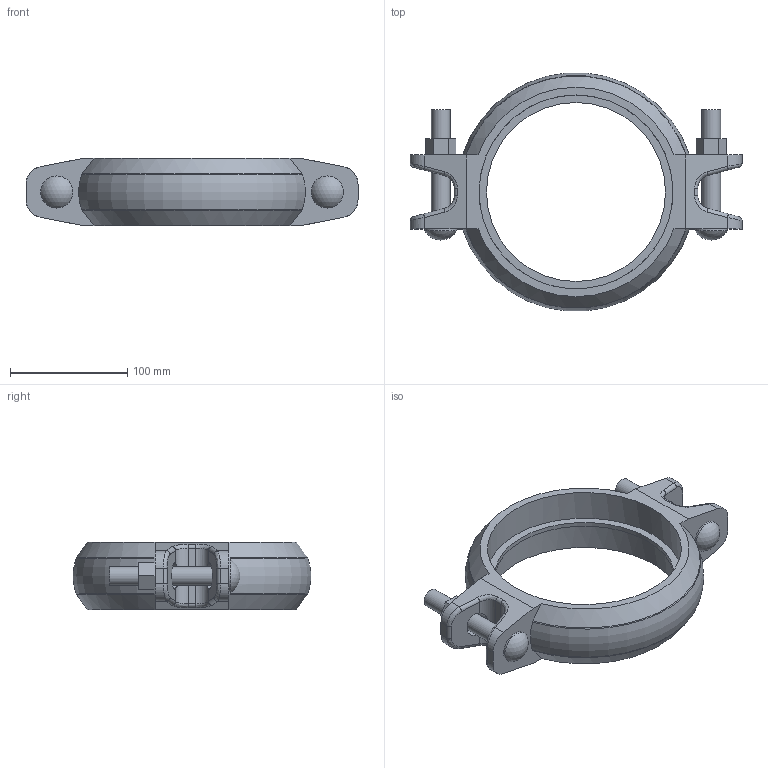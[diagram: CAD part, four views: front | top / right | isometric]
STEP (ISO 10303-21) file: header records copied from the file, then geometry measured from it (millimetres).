
FILE_DESCRIPTION(/* description */ ('QUICKVIC RIGID COUPLING FOR STEEL STYLE 107N','CAx-IF Rec.Pracs.---Representation and Presentation of Product Manufacturing Information (PMI)---4.0---2014-10-13'),/* implementation_level */ '2;1');
FILE_NAME(/* name */ 'C:\Users\Vjadhav\Desktop\CAD for Inventor\1\Coupling bolt thickness\107N\STEP\Victaulic_IPS_Coupling Rigid_Style 107N (OGS)\Victaulic_IPS_Coupling Rigid_Style 107N (OGS)_06.0 (165.1) (150).stp',/* time_stamp */ '2022-03-28T14:19:38+06:00',/* author */ ('jheald'),/* organization */ ('Victaulic'),/* preprocessor_version */ 'ST-DEVELOPER v17.2',/* originating_system */ 'Autodesk Inventor 2019',/* authorisation */ '');
FILE_SCHEMA (('AP242_MANAGED_MODEL_BASED_3D_ENGINEERING_MIM_LF { 1 0 10303 442 1 1 4 }'));
Length unit declared in the file: inch
Products named in the file (1): 107N-06.0 (165.1)
Bounding box: 282.7 x 202.49 x 57.15 mm (x, y, z)
Volume: 688923.7 mm3; surface area: 116386 mm2
Topology: 1 solids, 1 shells, 123 faces, 327 edges, 210 vertices
Faces by surface type: plane 50, cylinder 45, bspline 16, torus 6, cone 4, sphere 2
Full cylindrical faces by diameter (mm): 15.875 x4, 27.381 x2, 152.4 x1, 165.1 x2
Entity records: 4660 total; most frequent: CARTESIAN_POINT 1314, DIRECTION 675, ORIENTED_EDGE 654, EDGE_CURVE 327, AXIS2_PLACEMENT_3D 255, VERTEX_POINT 210, LINE 165, VECTOR 165
